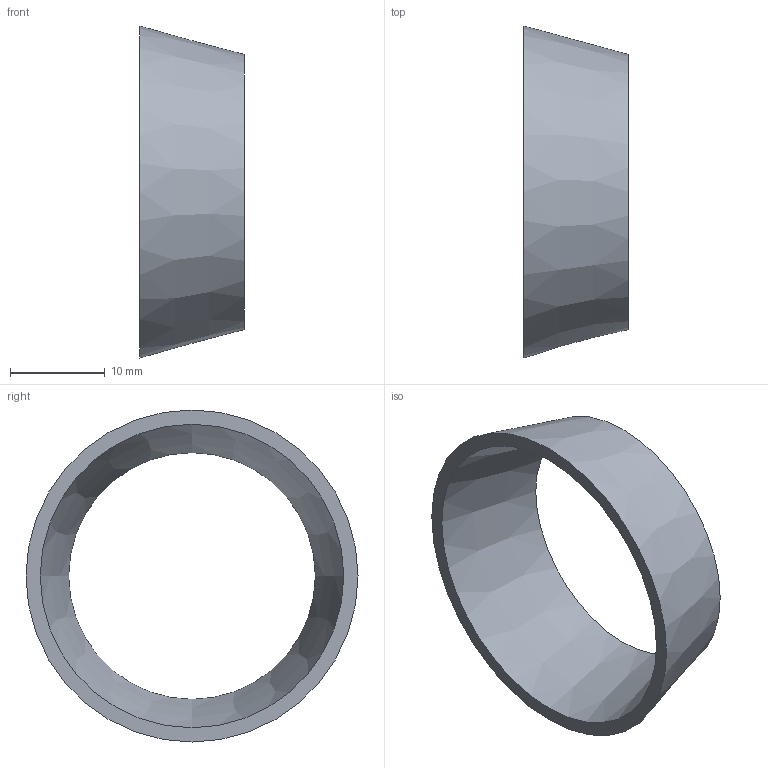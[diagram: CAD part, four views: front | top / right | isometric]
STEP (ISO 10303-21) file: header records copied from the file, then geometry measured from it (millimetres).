
FILE_DESCRIPTION(('FreeCAD Model'),'2;1');
FILE_NAME( '/home/martin/Documents/proyect/accesorios/stp/red-con_DN32-25.step', '2017-12-31T12:23:00',('Author'),(''), 'Open CASCADE STEP processor 6.8','FreeCAD','Unknown');
FILE_SCHEMA(('AUTOMOTIVE_DESIGN_CC2 { 1 2 10303 214 -1 1 5 4 }'));
Length unit declared in the file: millimetre
Products named in the file (1): red-con_DN32-25
Bounding box: 11 x 35 x 35 mm (x, y, z)
Volume: 1581 mm3; surface area: 2472.5 mm2
Topology: 1 solids, 1 shells, 4 faces, 6 edges, 4 vertices
Faces by surface type: cone 2, plane 2
Entity records: 191 total; most frequent: CARTESIAN_POINT 33, DIRECTION 26, ORIENTED_EDGE 12, PCURVE 12, DEFINITIONAL_REPRESENTATION 12, AXIS2_PLACEMENT_3D 9, CIRCLE 8, FACE_BOUND 6
